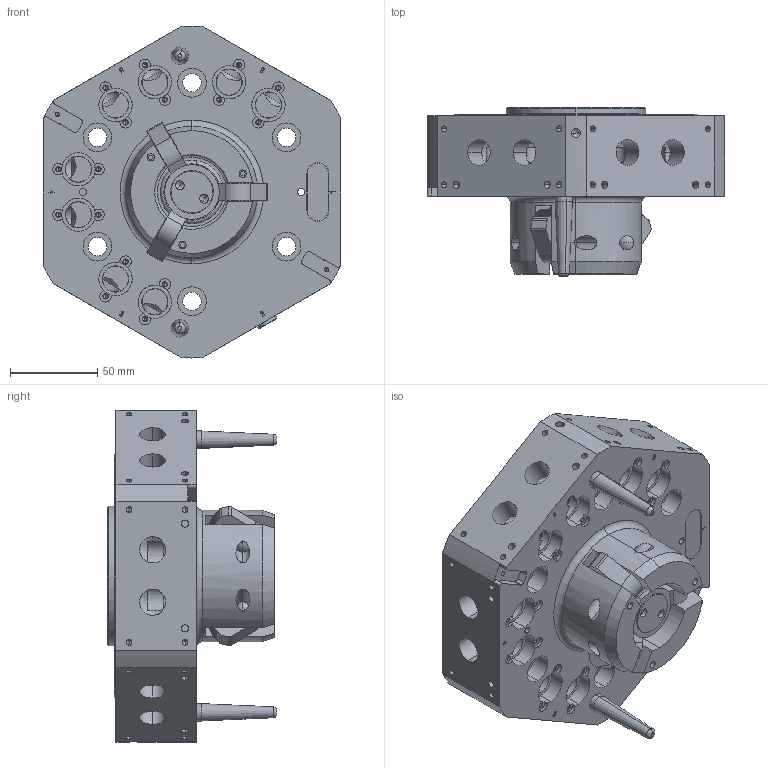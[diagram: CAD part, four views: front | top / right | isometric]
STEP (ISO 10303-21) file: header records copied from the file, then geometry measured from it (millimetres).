
FILE_DESCRIPTION (( 'STEP AP214' ), '1' );
FILE_NAME ('1800869A REV00.STEP', '2019-07-15T18:34:37', ( '' ), ( '' ), 'SwSTEP 2.0', 'SolidWorks 2019', '' );
FILE_SCHEMA (( 'AUTOMOTIVE_DESIGN' ));
Length unit declared in the file: millimetre
Products named in the file (30): 1800869A REV00; 0104-B59N; 49185; 95505-P1087; 1600-E03N; 48012; 0104-C62N; 49537; 0104-B71N; 1507-P01N; 48016_48016; 1600-C05N; 0107-C47N; 87515-P2047; 0701-P16N; 97501-P1084; 48427; 48008; 1601-D29A; 1600-C07N; 1600-C04N; 0109-P32N; 0701-P17N; 0104-B64N; 0104-B63N; 1600-P57N; 0201-P78N; 48414; 1600-D06A; 1600-C08N
Assembly tree (60 placements, depth 3):
  1800869A REV00
    1601-D29A
      1600-E03N
      1600-C04N
      1600-C05N
      0104-B71N  x2
      0701-P16N
      48427  x2
      0701-P17N
      0109-P32N
      0104-B59N  x3
      0107-C47N  x3
      0104-C62N
      0104-B64N
      0104-B63N
      49185  x2
      0201-P78N
      48016_48016  x6
      49537  x3
    1600-D06A
      1600-C07N
      1600-C08N
      1507-P01N  x2
      48414  x2
      48012  x4
      48008  x2
      87515-P2047  x6
      95505-P1087  x6
      97501-P1084  x2
    1600-P57N
Bounding box: 170 x 97 x 190 mm (x, y, z)
Volume: 1074417.1 mm3; surface area: 250736.1 mm2
Topology: 58 solids, 58 shells, 2323 faces, 5616 edges, 3526 vertices
Faces by surface type: plane 872, cylinder 809, cone 328, bspline 194, torus 104, sphere 16
Entity records: 72930 total; most frequent: CARTESIAN_POINT 28933, ORIENTED_EDGE 8464, DIRECTION 8404, EDGE_CURVE 4232, AXIS2_PLACEMENT_3D 3148, VERTEX_POINT 2734, VECTOR 2108, LINE 2108
